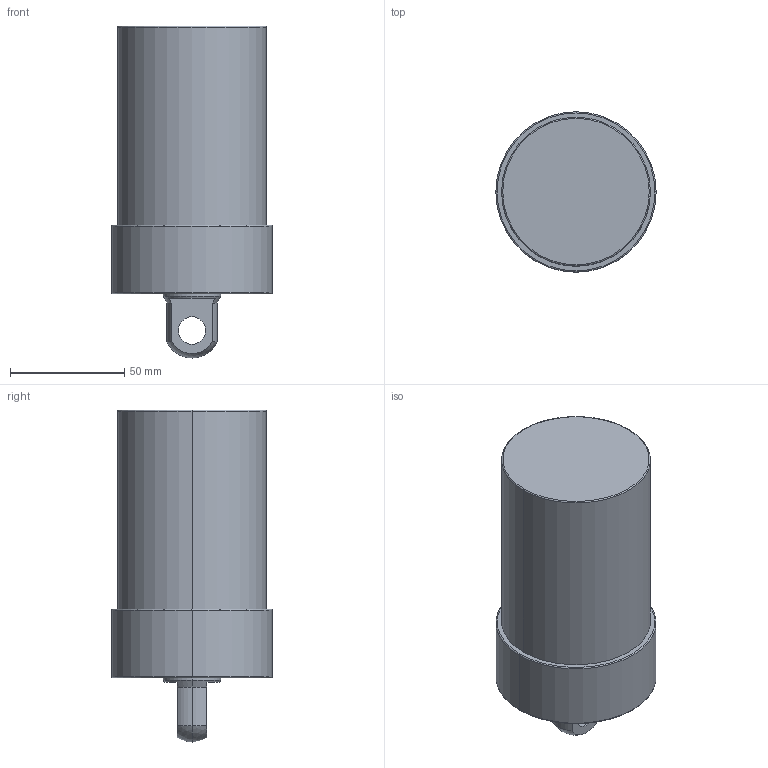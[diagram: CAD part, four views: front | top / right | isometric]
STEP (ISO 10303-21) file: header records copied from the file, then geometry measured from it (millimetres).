
FILE_DESCRIPTION (( 'STEP AP203' ), '1' );
FILE_NAME ('CLLU-065GP-070.STEP', '2020-01-06T09:28:10', ( '' ), ( '' ), 'SwSTEP 2.0', 'SolidWorks 2015', '' );
FILE_SCHEMA (( 'CONFIG_CONTROL_DESIGN' ));
Length unit declared in the file: millimetre
Products named in the file (1): CLLU-065GP-070
Bounding box: 70 x 70 x 145 mm (x, y, z)
Volume: 408334.4 mm3; surface area: 34860.9 mm2
Topology: 1 solids, 1 shells, 58 faces, 131 edges, 75 vertices
Faces by surface type: cylinder 23, cone 18, plane 9, torus 6, sphere 2
Entity records: 1658 total; most frequent: DIRECTION 311, CARTESIAN_POINT 269, ORIENTED_EDGE 246, AXIS2_PLACEMENT_3D 133, EDGE_CURVE 123, VERTEX_POINT 75, CIRCLE 74, EDGE_LOOP 68
